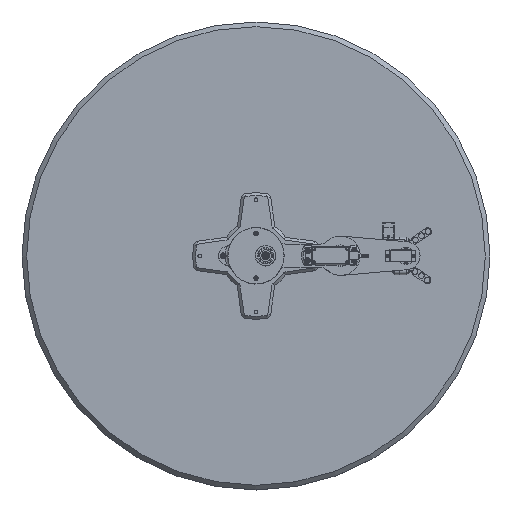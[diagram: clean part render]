
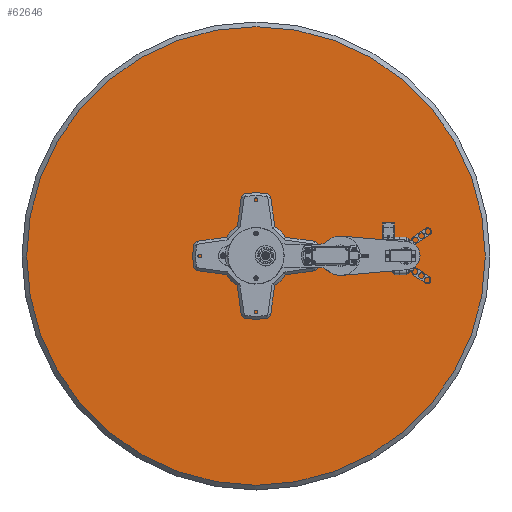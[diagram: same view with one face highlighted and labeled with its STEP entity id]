
A CAD part, top view. The second image highlights one B-rep face of the part: STEP entity #62646.
In plain terms, the highlighted planar face has unit normal (0, 0, 1) as drawn and (0, 0, -1) by its records, which use the part's own axes.
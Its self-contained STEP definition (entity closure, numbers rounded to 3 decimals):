
#7660=FACE_OUTER_BOUND('',#11176,.T.);
#11176=EDGE_LOOP('',(#57162));
#13436=CIRCLE('',#68565,245.);
#29986=VERTEX_POINT('',#121749);
#39089=EDGE_CURVE('',#29986,#29986,#13436,.T.);
#57162=ORIENTED_EDGE('',*,*,#39089,.F.);
#59623=PLANE('',#68568);
#62646=ADVANCED_FACE('',(#7660),#59623,.F.);
#68565=AXIS2_PLACEMENT_3D('',#121751,#84017,#84018);
#68568=AXIS2_PLACEMENT_3D('',#121756,#84024,#84025);
#84017=DIRECTION('center_axis',(0.,0.,1.));
#84018=DIRECTION('ref_axis',(-1.,0.,0.));
#84024=DIRECTION('center_axis',(0.,0.,1.));
#84025=DIRECTION('ref_axis',(1.,0.,0.));
#121749=CARTESIAN_POINT('',(245.,0.,0.));
#121751=CARTESIAN_POINT('Origin',(0.,0.,0.));
#121756=CARTESIAN_POINT('Origin',(0.,0.,0.));
